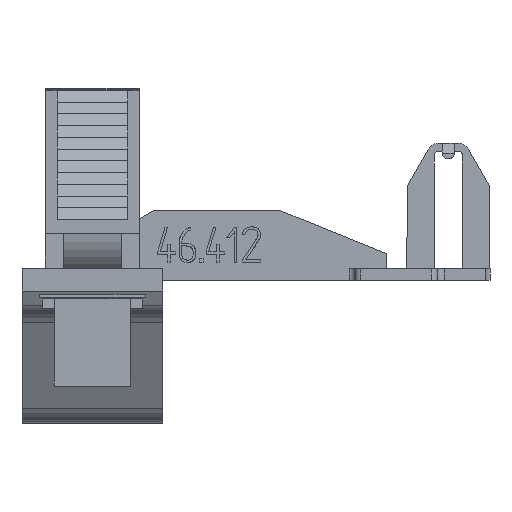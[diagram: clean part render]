
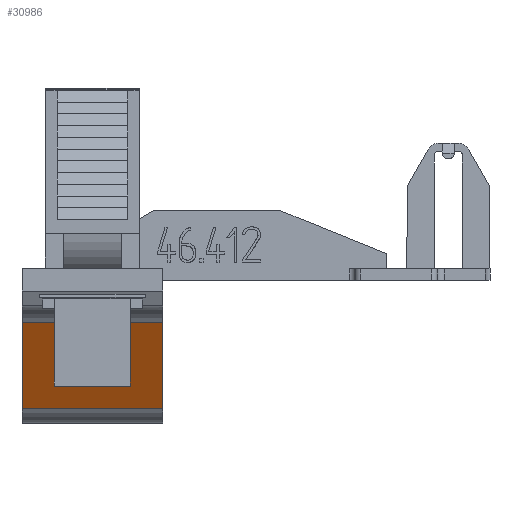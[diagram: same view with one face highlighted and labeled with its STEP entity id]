
A CAD part, left-side view. The second image highlights one B-rep face of the part: STEP entity #30986.
In plain terms, the highlighted planar face has unit normal (-0.866, 0, -0.5).
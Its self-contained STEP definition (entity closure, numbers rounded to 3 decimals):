
#10446=CARTESIAN_POINT(' ',(-53.891,-2.,-3.616));
#10447=VERTEX_POINT(' ',#10446);
#10461=CARTESIAN_POINT(' ',(-49.657,-2.,-10.95));
#10466=DIRECTION(' ',(-0.5,0.,0.866));
#10471=VECTOR(' ',#10466,1.);
#10476=LINE('',#10461,#10471);
#10481=CARTESIAN_POINT(' ',(-49.657,-2.,-10.95));
#10482=VERTEX_POINT(' ',#10481);
#10486=EDGE_CURVE(' ',#10482,#10447,#10476,.T.);
#30806=CARTESIAN_POINT(' ',(-53.891,10.,-3.616));
#30807=VERTEX_POINT(' ',#30806);
#30821=CARTESIAN_POINT(' ',(-53.891,10.,-3.616));
#30826=DIRECTION(' ',(0.,-1.,0.));
#30831=VECTOR(' ',#30826,1.);
#30836=LINE('',#30821,#30831);
#30841=EDGE_CURVE(' ',#30807,#10447,#30836,.T.);
#30876=DIRECTION(' ',(-0.866,0.,-0.5));
#30881=CARTESIAN_POINT(' ',(-49.657,-2.,-10.95));
#30886=DIRECTION(' ',(-0.5,0.,0.866));
#30891=AXIS2_PLACEMENT_3D(' ',#30881,#30876,#30886);
#30896=PLANE('',#30891);
#30901=ORIENTED_EDGE(' ',*,*,#10486,.T.);
#30906=ORIENTED_EDGE(' ',*,*,#30841,.F.);
#30911=CARTESIAN_POINT(' ',(-49.657,10.,-10.95));
#30916=DIRECTION(' ',(-0.5,0.,0.866));
#30921=VECTOR(' ',#30916,1.);
#30926=LINE('',#30911,#30921);
#30931=CARTESIAN_POINT(' ',(-49.657,10.,-10.95));
#30932=VERTEX_POINT(' ',#30931);
#30936=EDGE_CURVE(' ',#30932,#30807,#30926,.T.);
#30941=ORIENTED_EDGE(' ',*,*,#30936,.F.);
#30946=CARTESIAN_POINT(' ',(-49.657,10.,-10.95));
#30951=DIRECTION(' ',(0.,-1.,0.));
#30956=VECTOR(' ',#30951,1.);
#30961=LINE('',#30946,#30956);
#30966=EDGE_CURVE(' ',#30932,#10482,#30961,.T.);
#30971=ORIENTED_EDGE(' ',*,*,#30966,.T.);
#30976=EDGE_LOOP(' ',(#30901,#30906,#30941,#30971));
#30981=FACE_OUTER_BOUND(' ',#30976,.T.);
#30986=ADVANCED_FACE('',(#30981),#30896,.T.);
